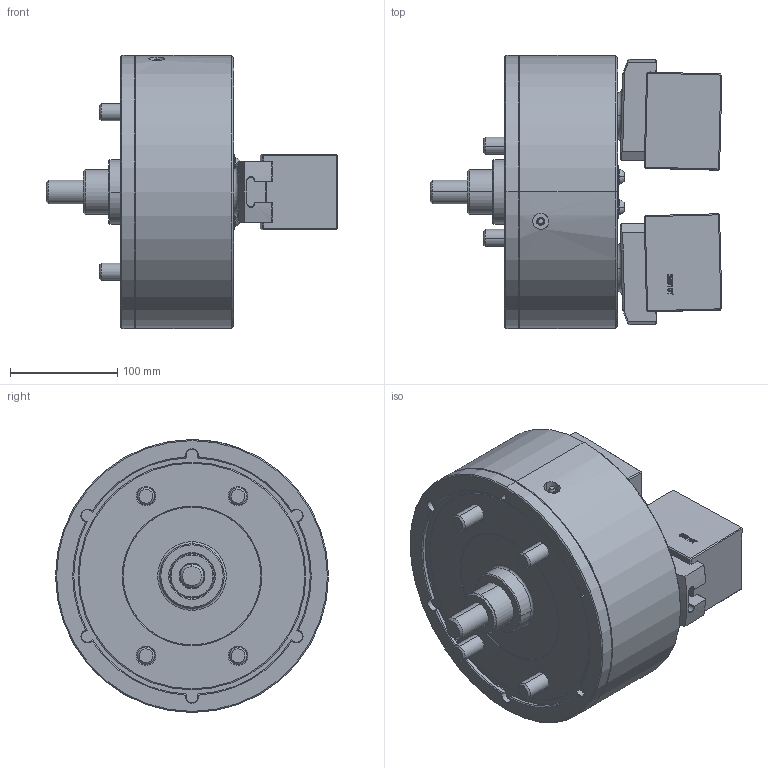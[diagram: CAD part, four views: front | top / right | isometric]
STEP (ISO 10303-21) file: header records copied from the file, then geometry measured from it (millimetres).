
FILE_DESCRIPTION (( 'STEP AP214' ), '1' );
FILE_NAME ('PWT10_OC_OD.STEP', '2019-10-21T06:48:31', ( '' ), ( '' ), 'SwSTEP 2.0', 'SolidWorks 2017', '' );
FILE_SCHEMA (( 'AUTOMOTIVE_DESIGN' ));
Length unit declared in the file: millimetre
Products named in the file (5): 61P420193; 61P332345; 0030116025; 結合_OD; PWT10_OC_OD
Assembly tree (9 placements, depth 2):
  PWT10_OC_OD
    61P420193  x2
    61P332345  x2
    0030116025  x4
    結合_OD
Bounding box: 271.64 x 254 x 254 mm (x, y, z)
Volume: 6175962.8 mm3; surface area: 430806.2 mm2
Topology: 9 solids, 10 shells, 1590 faces, 3957 edges, 2495 vertices
Faces by surface type: plane 830, cone 252, bspline 245, cylinder 209, torus 54
Entity records: 47822 total; most frequent: CARTESIAN_POINT 17493, ORIENTED_EDGE 6584, DIRECTION 5574, EDGE_CURVE 3292, VERTEX_POINT 2092, VECTOR 1892, LINE 1892, AXIS2_PLACEMENT_3D 1841
